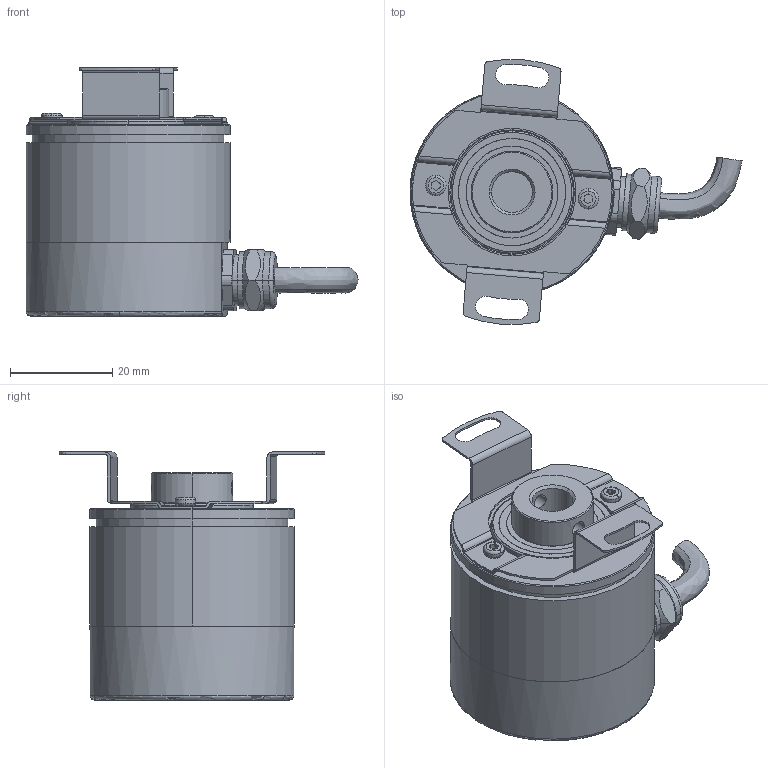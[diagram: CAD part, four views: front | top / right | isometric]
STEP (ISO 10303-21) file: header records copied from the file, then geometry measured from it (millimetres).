
FILE_DESCRIPTION(/* description */ (''),/* implementation_level */ '2;1');
FILE_NAME(/* name */ '08 编码器 IP68-BRT38M-8mm盲孔_.stp',/* time_stamp */ '2024-06-13T10:35:16+08:00',/* author */ (''),/* organization */ (''),/* preprocessor_version */ 'ST-DEVELOPER v16.7',/* originating_system */ 'SIEMENS PLM Software NX 12.0',/* authorisation */ '');
FILE_SCHEMA (('AP203_CONFIGURATION_CONTROLLED_3D_DESIGN_OF_MECHANICAL_PARTS_AND_ASSEMBLIES_MIM_LF { 1 0 10303 403 2 1 2}'));
Length unit declared in the file: millimetre
Products named in the file (1): Li Y502C912Ezxk1
Bounding box: 65.06 x 51.94 x 48.6 mm (x, y, z)
Volume: 27467.2 mm3; surface area: 34088.1 mm2
Topology: 12 solids, 158 shells, 504 faces, 1739 edges, 1388 vertices
Faces by surface type: cylinder 206, torus 127, plane 109, sphere 46, cone 14, bspline 2
Entity records: 23733 total; most frequent: CARTESIAN_POINT 7846, DIRECTION 3159, ORIENTED_EDGE 2521, EDGE_CURVE 1693, AXIS2_PLACEMENT_3D 1402, VERTEX_POINT 1387, CIRCLE 899, EDGE_LOOP 557
